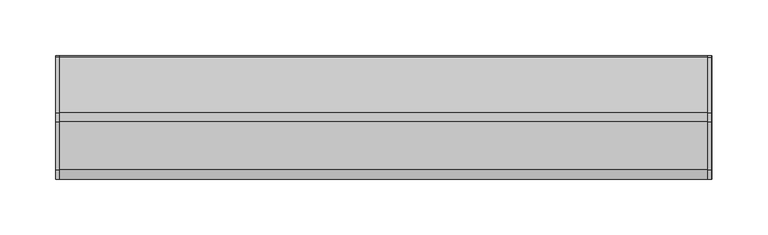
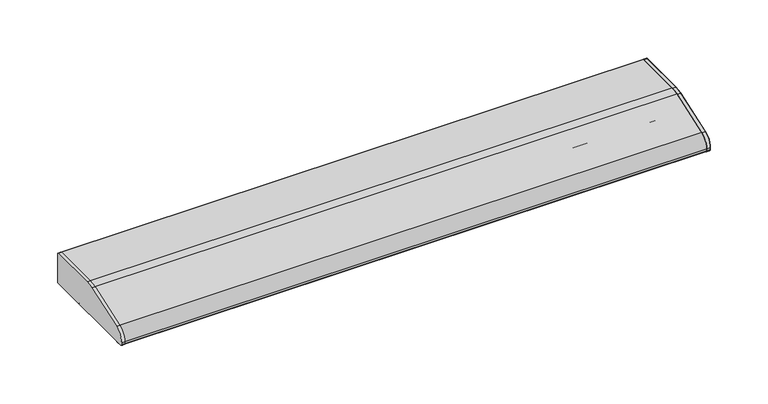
"""IFC4 building model written with IfcOpenShell, lengths in millimetres: light fixture geometry, HermanMiller_SupplementalProducts_G6136_UtilityTaskLight : AO Etho Canvas 30W."""

from ifc_helpers import new_model, si_unit, point, frame, frame_2d, origin, place, context, project, spatial, polyline, circle_curve, trimmed, segment, composite_curve, outline, extrude, source, transform, mapped, element, save


def light_fixture_6bfc72b8(model_context):
    return source(origin(), model_context, "Body", "SweptSolid", [
        extrude(outline(composite_curve([segment(polyline([(53.975, 1206.5), (-53.975, 1206.5)]), True, "CONTINUOUS"), segment(trimmed(circle_curve(frame_2d((-53.975, 1208.0875)), 1.5875), [point((-53.975, 1206.5))], [point((-55.5625, 1208.0875))], False, "CARTESIAN"), True, "CONTINUOUS"), segment(polyline([(-55.5625, 1208.0875), (-55.5625, 1210.1285714)]), True, "CONTINUOUS"), segment(trimmed(circle_curve(frame_2d((-42.8625, 1210.1285714)), 12.7), [point((-55.5625, 1210.1285714))], [point((-46.9814189, 1222.1420849))], False, "CARTESIAN"), True, "CONTINUOUS"), segment(polyline([(-46.9814189, 1222.1420849), (-4.0045045, 1236.877027)]), True, "CONTINUOUS"), segment(trimmed(circle_curve(frame_2d((4.2333333, 1212.85)), 25.4), [point((-4.0045045, 1236.877027))], [point((4.2333333, 1238.25))], False, "CARTESIAN"), True, "CONTINUOUS"), segment(polyline([(4.2333333, 1238.25), (53.975, 1238.25)]), True, "CONTINUOUS"), segment(trimmed(circle_curve(frame_2d((53.975, 1236.6625)), 1.5875), [point((53.975, 1238.25))], [point((55.5625, 1236.6625))], False, "CARTESIAN"), True, "CONTINUOUS"), segment(polyline([(55.5625, 1236.6625), (55.5625, 1208.0875)]), True, "CONTINUOUS"), segment(trimmed(circle_curve(frame_2d((53.975, 1208.0875)), 1.5875), [point((55.5625, 1208.0875))], [point((53.975, 1206.5))], False, "CARTESIAN"), True, "CONTINUOUS")], self_intersect=False)), frame((291.846, 0.0, 0.0), z_axis=(1.0, 0.0, 0.0), x_axis=(0.0, 1.0, 0.0)), (0.0, 0.0, 1.0), 3.175),
        extrude(outline(composite_curve([segment(trimmed(circle_curve(frame_2d((53.975, 1236.6625)), 1.5875), [point((53.975, 1238.25))], [point((55.5625, 1236.6625))], False, "CARTESIAN"), True, "CONTINUOUS"), segment(polyline([(55.5625, 1236.6625), (55.5625, 1208.0875)]), True, "CONTINUOUS"), segment(trimmed(circle_curve(frame_2d((53.975, 1208.0875)), 1.5875), [point((55.5625, 1208.0875))], [point((53.975, 1206.5))], False, "CARTESIAN"), True, "CONTINUOUS"), segment(polyline([(53.975, 1206.5), (-53.975, 1206.5)]), True, "CONTINUOUS"), segment(trimmed(circle_curve(frame_2d((-53.975, 1208.0875)), 1.5875), [point((-53.975, 1206.5))], [point((-55.5625, 1208.0875))], False, "CARTESIAN"), True, "CONTINUOUS"), segment(polyline([(-55.5625, 1208.0875), (-55.5625, 1210.1285714)]), True, "CONTINUOUS"), segment(trimmed(circle_curve(frame_2d((-42.8625, 1210.1285714)), 12.7), [point((-55.5625, 1210.1285714))], [point((-46.9814189, 1222.1420849))], False, "CARTESIAN"), True, "CONTINUOUS"), segment(polyline([(-46.9814189, 1222.1420849), (-4.0045045, 1236.877027)]), True, "CONTINUOUS"), segment(trimmed(circle_curve(frame_2d((4.2333333, 1212.85)), 25.4), [point((-4.0045045, 1236.877027))], [point((4.2333333, 1238.25))], False, "CARTESIAN"), True, "CONTINUOUS"), segment(polyline([(4.2333333, 1238.25), (53.975, 1238.25)]), True, "CONTINUOUS")], self_intersect=False)), frame((-295.021, 0.0, 0.0), z_axis=(1.0, 0.0, 0.0), x_axis=(0.0, 1.0, 0.0)), (0.0, 0.0, 1.0), 3.175),
        extrude(outline(composite_curve([segment(polyline([(55.5625, 1236.6625), (55.5625, 1208.0875)]), True, "CONTINUOUS"), segment(trimmed(circle_curve(frame_2d((53.975, 1208.0875)), 1.5875), [point((55.5625, 1208.0875))], [point((53.975, 1206.5))], False, "CARTESIAN"), True, "CONTINUOUS"), segment(polyline([(53.975, 1206.5), (19.05, 1206.5)]), True, "CONTINUOUS"), segment(trimmed(circle_curve(frame_2d((19.05, 1208.0875)), 1.5875), [point((19.05, 1206.5))], [point((17.4625, 1208.0875))], False, "CARTESIAN"), True, "CONTINUOUS"), segment(polyline([(17.4625, 1208.0875), (17.4625, 1236.6625), (4.4979167, 1236.6625)]), True, "CONTINUOUS"), segment(trimmed(circle_curve(frame_2d((4.4979167, 1211.2625)), 25.4), [point((4.4979167, 1236.6625))], [point((-3.7399212, 1235.289527))], True, "CARTESIAN"), True, "CONTINUOUS"), segment(polyline([(-3.7399212, 1235.289527), (-37.4564189, 1223.7295849)]), True, "CONTINUOUS"), segment(trimmed(circle_curve(frame_2d((-33.3375, 1211.7160714)), 12.7), [point((-37.4564189, 1223.7295849))], [point((-46.0375, 1211.7160714))], True, "CARTESIAN"), True, "CONTINUOUS"), segment(polyline([(-46.0375, 1211.7160714), (-46.0375, 1208.0875)]), True, "CONTINUOUS"), segment(trimmed(circle_curve(frame_2d((-47.625, 1208.0875)), 1.5875), [point((-46.0375, 1208.0875))], [point((-47.625, 1206.5))], False, "CARTESIAN"), True, "CONTINUOUS"), segment(polyline([(-47.625, 1206.5), (-53.975, 1206.5)]), True, "CONTINUOUS"), segment(trimmed(circle_curve(frame_2d((-53.975, 1208.0875)), 1.5875), [point((-53.975, 1206.5))], [point((-55.5625, 1208.0875))], False, "CARTESIAN"), True, "CONTINUOUS"), segment(polyline([(-55.5625, 1208.0875), (-55.5625, 1210.1285714)]), True, "CONTINUOUS"), segment(trimmed(circle_curve(frame_2d((-42.8625, 1210.1285714)), 12.7), [point((-55.5625, 1210.1285714))], [point((-46.9814189, 1222.1420849))], False, "CARTESIAN"), True, "CONTINUOUS"), segment(polyline([(-46.9814189, 1222.1420849), (-4.0045045, 1236.877027)]), True, "CONTINUOUS"), segment(trimmed(circle_curve(frame_2d((4.2333333, 1212.85)), 25.4), [point((-4.0045045, 1236.877027))], [point((4.2333333, 1238.25))], False, "CARTESIAN"), True, "CONTINUOUS"), segment(polyline([(4.2333333, 1238.25), (53.975, 1238.25)]), True, "CONTINUOUS"), segment(trimmed(circle_curve(frame_2d((53.975, 1236.6625)), 1.5875), [point((53.975, 1238.25))], [point((55.5625, 1236.6625))], False, "CARTESIAN"), True, "CONTINUOUS")], self_intersect=False)), frame((-295.021, 0.0, 0.0), z_axis=(1.0, 0.0, 0.0), x_axis=(0.0, 1.0, 0.0)), (0.0, 0.0, 1.0), 590.5080011),
        extrude(outline(composite_curve([segment(trimmed(circle_curve(frame_2d((1.5875, 1223.9625)), 9.525), [point((-7.9375, 1223.9625))], [point((11.1125, 1223.9625))], False, "CARTESIAN"), True, "CONTINUOUS"), segment(trimmed(circle_curve(frame_2d((1.5875, 1223.9625)), 9.525), [point((11.1125, 1223.9625))], [point((-7.9375, 1223.9625))], False, "CARTESIAN"), True, "CONTINUOUS")], self_intersect=False)), frame((269.621, 0.0, 0.0), z_axis=(1.0, 0.0, 0.0), x_axis=(0.0, 1.0, 0.0)), (0.0, 0.0, 1.0), 12.7),
        extrude(outline(composite_curve([segment(trimmed(circle_curve(frame_2d((1.5875, 1223.9625)), 9.525), [point((-7.9375, 1223.9625))], [point((11.1125, 1223.9625))], False, "CARTESIAN"), True, "CONTINUOUS"), segment(trimmed(circle_curve(frame_2d((1.5875, 1223.9625)), 9.525), [point((11.1125, 1223.9625))], [point((-7.9375, 1223.9625))], False, "CARTESIAN"), True, "CONTINUOUS")], self_intersect=False)), frame((-282.321, 0.0, 0.0), z_axis=(1.0, 0.0, 0.0), x_axis=(0.0, 1.0, 0.0)), (0.0, 0.0, 1.0), 12.7),
        extrude(outline(composite_curve([segment(trimmed(circle_curve(frame_2d((1.5875, 1223.9625)), 9.525), [point((-7.9375, 1223.9625))], [point((11.1125, 1223.9625))], False, "CARTESIAN"), True, "CONTINUOUS"), segment(trimmed(circle_curve(frame_2d((1.5875, 1223.9625)), 9.525), [point((11.1125, 1223.9625))], [point((-7.9375, 1223.9625))], False, "CARTESIAN"), True, "CONTINUOUS")], self_intersect=False)), frame((-269.621, 0.0, 0.0), z_axis=(1.0, 0.0, 0.0), x_axis=(0.0, 1.0, 0.0)), (0.0, 0.0, 1.0), 539.242),
        extrude(outline(composite_curve([segment(polyline([(17.4625, 1209.675), (-46.0375, 1209.675), (-46.0375, 1211.7160714)]), True, "CONTINUOUS"), segment(trimmed(circle_curve(frame_2d((-33.3375, 1211.7160714)), 12.7), [point((-46.0375, 1211.7160714))], [point((-37.4564189, 1223.7295849))], False, "CARTESIAN"), True, "CONTINUOUS"), segment(polyline([(-37.4564189, 1223.7295849), (-3.7399212, 1235.289527)]), True, "CONTINUOUS"), segment(trimmed(circle_curve(frame_2d((4.4979167, 1211.2625)), 25.4), [point((-3.7399212, 1235.289527))], [point((4.4979167, 1236.6625))], False, "CARTESIAN"), True, "CONTINUOUS"), segment(polyline([(4.4979167, 1236.6625), (17.4625, 1236.6625), (17.4625, 1209.675)]), True, "CONTINUOUS")], self_intersect=False)), frame((282.321, 0.0, 0.0), z_axis=(1.0, 0.0, 0.0), x_axis=(0.0, 1.0, 0.0)), (0.0, 0.0, 1.0), 9.525),
        extrude(outline(composite_curve([segment(polyline([(17.4625, 1209.675), (-46.0375, 1209.675), (-46.0375, 1211.7160714)]), True, "CONTINUOUS"), segment(trimmed(circle_curve(frame_2d((-33.3375, 1211.7160714)), 12.7), [point((-46.0375, 1211.7160714))], [point((-37.4564189, 1223.7295849))], False, "CARTESIAN"), True, "CONTINUOUS"), segment(polyline([(-37.4564189, 1223.7295849), (-3.7399212, 1235.289527)]), True, "CONTINUOUS"), segment(trimmed(circle_curve(frame_2d((4.4979167, 1211.2625)), 25.4), [point((-3.7399212, 1235.289527))], [point((4.4979167, 1236.6625))], False, "CARTESIAN"), True, "CONTINUOUS"), segment(polyline([(4.4979167, 1236.6625), (17.4625, 1236.6625), (17.4625, 1209.675)]), True, "CONTINUOUS")], self_intersect=False)), frame((-291.846, 0.0, 0.0), z_axis=(1.0, 0.0, 0.0), x_axis=(0.0, 1.0, 0.0)), (0.0, 0.0, 1.0), 9.525),
    ])


if __name__ == "__main__":
    model = new_model("IFC4")
    model_context = context("Model", 3, world=origin())
    ifc_project = project(units=[si_unit("LENGTHUNIT", "METRE", prefix="MILLI")], contexts=[model_context])
    site = spatial("IfcSite", under=ifc_project)
    building = spatial("IfcBuilding", under=site)
    placement = place(None, origin())
    light_fixture_shape = light_fixture_6bfc72b8(model_context)
    element("IfcLightFixture", 1, ObjectType="HermanMiller_SupplementalProducts_G6136_UtilityTaskLight : AO Etho Canvas 30W", at=placement, inside=building, context=model_context, shape_type="MappedRepresentation", body=[
        mapped(light_fixture_shape, transform((0.0, 0.0, 0.0), x_axis=(1.0, 0.0, 0.0), y_axis=(0.0, 1.0, 0.0), z_axis=(0.0, 0.0, 1.0))),
    ])
    save(model, "model.ifc")
